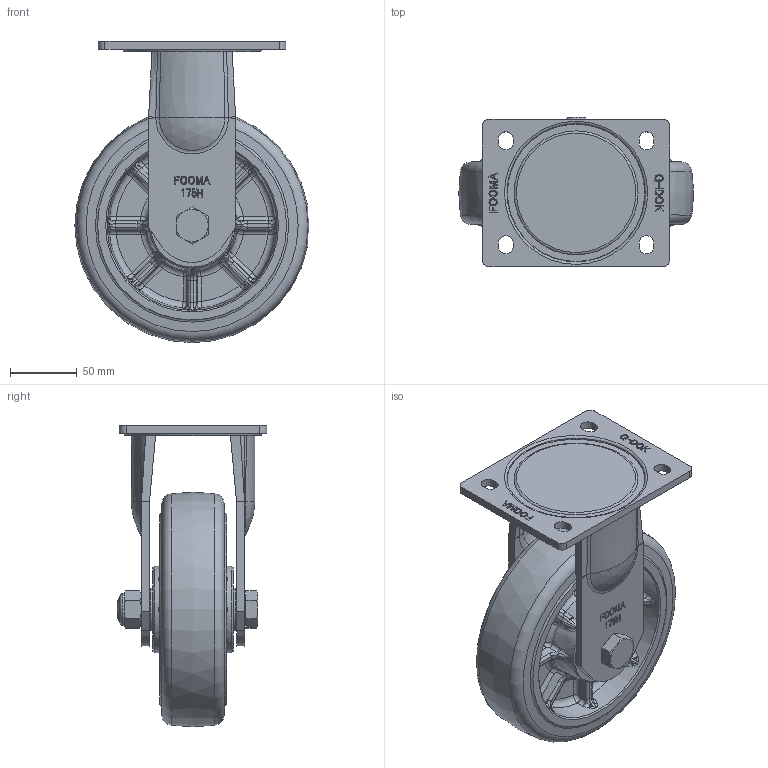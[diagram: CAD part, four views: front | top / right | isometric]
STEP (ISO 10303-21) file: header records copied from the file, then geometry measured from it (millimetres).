
FILE_DESCRIPTION(/* description */ (''),/* implementation_level */ '2;1');
FILE_NAME(/* name */ 'Y:\1.기술연구소\2.연구개발 진행중\94.PLM 고하중 개발\1.도면\3D\홈페이지용 3D\GHP-175-ARF-MUD-PEU.stp',/* time_stamp */ '2024-04-24T11:21:00+09:00',/* author */ ('장용하'),/* organization */ (''),/* preprocessor_version */ 'ST-DEVELOPER v18.1',/* originating_system */ 'Autodesk Inventor 2021',/* authorisation */ '');
FILE_SCHEMA (('AUTOMOTIVE_DESIGN { 1 0 10303 214 3 1 1 }'));
Products named in the file (1): GHP-175-ARF-MUD-PEU_Shrinkwrap_1
Bounding box: 174.88 x 111.5 x 225 mm (x, y, z)
Volume: 1076274.6 mm3; surface area: 174556 mm2
Topology: 1 solids, 1 shells, 1289 faces, 3188 edges, 1950 vertices
Faces by surface type: bspline 640, plane 385, cylinder 179, torus 49, cone 32, sphere 4
Full cylindrical faces by diameter (mm): 16 x1, 22.49 x1, 24 x1, 32 x2
Entity records: 48500 total; most frequent: CARTESIAN_POINT 21548, ORIENTED_EDGE 6368, DIRECTION 4260, EDGE_CURVE 3184, VERTEX_POINT 1950, AXIS2_PLACEMENT_3D 1544, EDGE_LOOP 1352, FACE_OUTER_BOUND 1289
